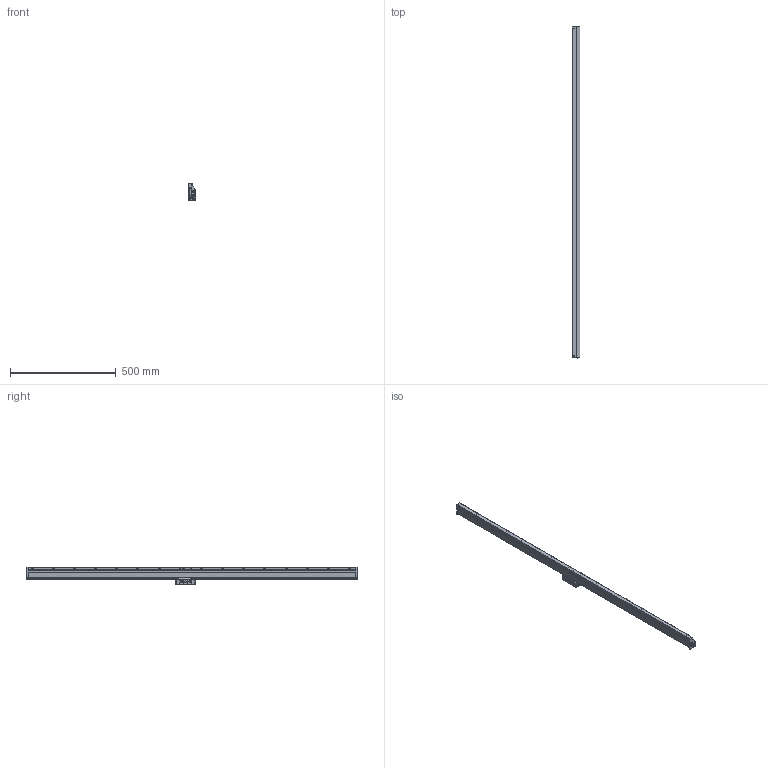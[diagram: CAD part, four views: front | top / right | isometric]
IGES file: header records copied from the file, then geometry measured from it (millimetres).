
Start section: Elysium IGES Interface
Global section: file name: 82HK:\20_商品設計\設計１課\個人\宮澤\郷間さん\AT1153\3D\NEW_ﾌｧｲﾙ\IGES\AT1153-1440.igs; native system: Creo Elements/Direct Modeling 18.1B  29-Sep-2012; preprocessor: Creo Element/Direct IGES_3D V2.2; author: Unknown; organization: Unknown; date: 20181012.114214; units: millimetre
Bounding box: 37 x 1568.31 x 85 mm (x, y, z)
Volume: 2462759.3 mm3; surface area: 353859.6 mm2
Topology: 2 solids, 2 shells, 3062 faces, 8180 edges, 5300 vertices
Faces by surface type: bspline 3062
